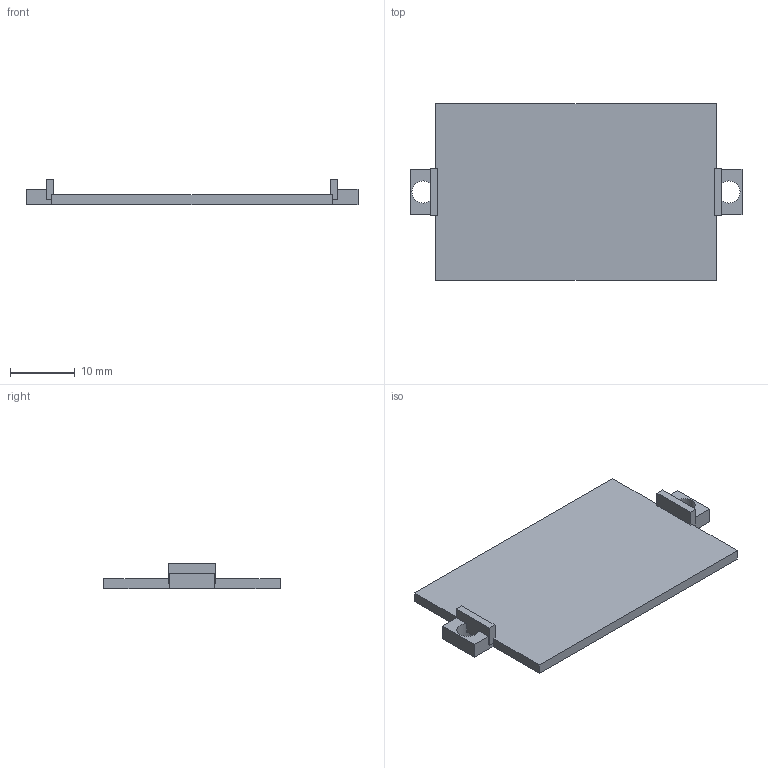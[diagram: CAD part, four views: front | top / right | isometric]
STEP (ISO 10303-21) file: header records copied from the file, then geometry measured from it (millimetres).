
FILE_DESCRIPTION(('FreeCAD Model'),'2;1');
FILE_NAME('Open CASCADE Shape Model','2026-11-20T08:25:38',('FreeCAD'),( 'FreeCAD'),'Open CASCADE STEP processor 7.8','FreeCAD','Unknown');
FILE_SCHEMA(('AUTOMOTIVE_DESIGN { 1 0 10303 214 1 1 1 1 }'));
Length unit declared in the file: millimetre
Products named in the file (1): Open CASCADE STEP translator 7.8 56
Bounding box: 51.2 x 27.2 x 4 mm (x, y, z)
Volume: 2006.6 mm3; surface area: 2823.4 mm2
Topology: 1 solids, 1 shells, 34 faces, 102 edges, 68 vertices
Faces by surface type: plane 32, cylinder 2
Full cylindrical faces by diameter (mm): 3.4 x2
Entity records: 1152 total; most frequent: CARTESIAN_POINT 205, ORIENTED_EDGE 204, DIRECTION 180, EDGE_CURVE 102, LINE 94, VECTOR 94, VERTEX_POINT 68, AXIS2_PLACEMENT_3D 43
